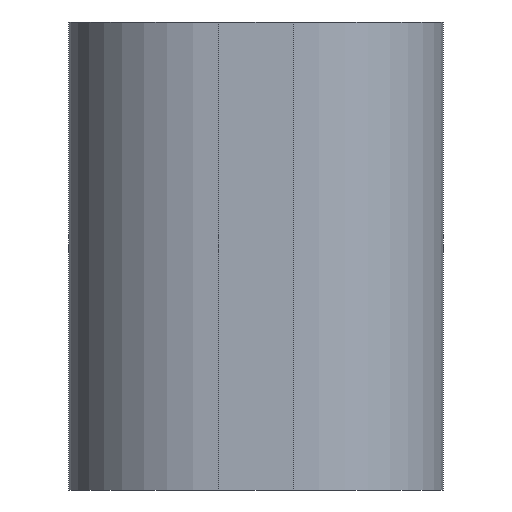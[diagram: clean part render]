
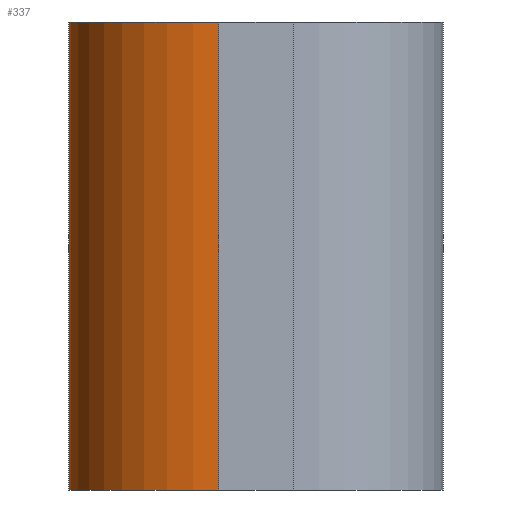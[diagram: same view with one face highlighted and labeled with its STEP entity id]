
A CAD part, front view. The second image highlights one B-rep face of the part: STEP entity #337.
In plain terms, the highlighted cylindrical face has radius 16 mm (diameter 32 mm), a partial arc.
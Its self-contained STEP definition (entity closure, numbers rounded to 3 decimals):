
#22 = VERTEX_POINT('',#23);
#23 = CARTESIAN_POINT('',(-20.,-234.,50.));
#32 = PLANE('',#33);
#33 = AXIS2_PLACEMENT_3D('',#34,#35,#36);
#34 = CARTESIAN_POINT('',(-20.,-250.,0.));
#35 = DIRECTION('',(1.,0.,0.));
#36 = DIRECTION('',(0.,0.,1.));
#44 = PLANE('',#45);
#45 = AXIS2_PLACEMENT_3D('',#46,#47,#48);
#46 = CARTESIAN_POINT('',(-20.,-250.,50.));
#47 = DIRECTION('',(0.,0.,1.));
#48 = DIRECTION('',(1.,0.,0.));
#56 = EDGE_CURVE('',#57,#22,#59,.T.);
#57 = VERTEX_POINT('',#58);
#58 = CARTESIAN_POINT('',(-20.,-234.,0.));
#59 = SURFACE_CURVE('',#60,(#64,#71),.PCURVE_S1.);
#60 = LINE('',#61,#62);
#61 = CARTESIAN_POINT('',(-20.,-234.,0.));
#62 = VECTOR('',#63,1.);
#63 = DIRECTION('',(0.,0.,1.));
#64 = PCURVE('',#32,#65);
#65 = DEFINITIONAL_REPRESENTATION('',(#66),#70);
#66 = LINE('',#67,#68);
#67 = CARTESIAN_POINT('',(0.,-16.));
#68 = VECTOR('',#69,1.);
#69 = DIRECTION('',(1.,0.));
#70 = ( GEOMETRIC_REPRESENTATION_CONTEXT(2) 
PARAMETRIC_REPRESENTATION_CONTEXT() REPRESENTATION_CONTEXT('2D SPACE',''
  ) );
#71 = PCURVE('',#72,#77);
#72 = CYLINDRICAL_SURFACE('',#73,16.);
#73 = AXIS2_PLACEMENT_3D('',#74,#75,#76);
#74 = CARTESIAN_POINT('',(-4.,-234.,0.));
#75 = DIRECTION('',(0.,0.,1.));
#76 = DIRECTION('',(-1.,-0.,0.));
#77 = DEFINITIONAL_REPRESENTATION('',(#78),#82);
#78 = LINE('',#79,#80);
#79 = CARTESIAN_POINT('',(0.,0.));
#80 = VECTOR('',#81,1.);
#81 = DIRECTION('',(0.,1.));
#82 = ( GEOMETRIC_REPRESENTATION_CONTEXT(2) 
PARAMETRIC_REPRESENTATION_CONTEXT() REPRESENTATION_CONTEXT('2D SPACE',''
  ) );
#100 = PLANE('',#101);
#101 = AXIS2_PLACEMENT_3D('',#102,#103,#104);
#102 = CARTESIAN_POINT('',(-20.,-250.,0.));
#103 = DIRECTION('',(0.,0.,1.));
#104 = DIRECTION('',(1.,0.,0.));
#142 = EDGE_CURVE('',#22,#143,#145,.T.);
#143 = VERTEX_POINT('',#144);
#144 = CARTESIAN_POINT('',(-4.,-250.,50.));
#145 = SURFACE_CURVE('',#146,(#151,#158),.PCURVE_S1.);
#146 = CIRCLE('',#147,16.);
#147 = AXIS2_PLACEMENT_3D('',#148,#149,#150);
#148 = CARTESIAN_POINT('',(-4.,-234.,50.));
#149 = DIRECTION('',(0.,0.,1.));
#150 = DIRECTION('',(0.,-1.,0.));
#151 = PCURVE('',#44,#152);
#152 = DEFINITIONAL_REPRESENTATION('',(#153),#157);
#153 = CIRCLE('',#154,16.);
#154 = AXIS2_PLACEMENT_2D('',#155,#156);
#155 = CARTESIAN_POINT('',(16.,16.));
#156 = DIRECTION('',(0.,-1.));
#157 = ( GEOMETRIC_REPRESENTATION_CONTEXT(2) 
PARAMETRIC_REPRESENTATION_CONTEXT() REPRESENTATION_CONTEXT('2D SPACE',''
  ) );
#158 = PCURVE('',#72,#159);
#159 = DEFINITIONAL_REPRESENTATION('',(#160),#164);
#160 = LINE('',#161,#162);
#161 = CARTESIAN_POINT('',(-4.712,50.));
#162 = VECTOR('',#163,1.);
#163 = DIRECTION('',(1.,0.));
#164 = ( GEOMETRIC_REPRESENTATION_CONTEXT(2) 
PARAMETRIC_REPRESENTATION_CONTEXT() REPRESENTATION_CONTEXT('2D SPACE',''
  ) );
#182 = PLANE('',#183);
#183 = AXIS2_PLACEMENT_3D('',#184,#185,#186);
#184 = CARTESIAN_POINT('',(-20.,-250.,0.));
#185 = DIRECTION('',(0.,1.,0.));
#186 = DIRECTION('',(0.,0.,1.));
#337 = ADVANCED_FACE('',(#338),#72,.T.);
#338 = FACE_BOUND('',#339,.T.);
#339 = EDGE_LOOP('',(#340,#364,#385,#386));
#340 = ORIENTED_EDGE('',*,*,#341,.T.);
#341 = EDGE_CURVE('',#57,#342,#344,.T.);
#342 = VERTEX_POINT('',#343);
#343 = CARTESIAN_POINT('',(-4.,-250.,0.));
#344 = SURFACE_CURVE('',#345,(#350,#357),.PCURVE_S1.);
#345 = CIRCLE('',#346,16.);
#346 = AXIS2_PLACEMENT_3D('',#347,#348,#349);
#347 = CARTESIAN_POINT('',(-4.,-234.,0.));
#348 = DIRECTION('',(0.,0.,1.));
#349 = DIRECTION('',(0.,-1.,0.));
#350 = PCURVE('',#72,#351);
#351 = DEFINITIONAL_REPRESENTATION('',(#352),#356);
#352 = LINE('',#353,#354);
#353 = CARTESIAN_POINT('',(-4.712,0.));
#354 = VECTOR('',#355,1.);
#355 = DIRECTION('',(1.,0.));
#356 = ( GEOMETRIC_REPRESENTATION_CONTEXT(2) 
PARAMETRIC_REPRESENTATION_CONTEXT() REPRESENTATION_CONTEXT('2D SPACE',''
  ) );
#357 = PCURVE('',#100,#358);
#358 = DEFINITIONAL_REPRESENTATION('',(#359),#363);
#359 = CIRCLE('',#360,16.);
#360 = AXIS2_PLACEMENT_2D('',#361,#362);
#361 = CARTESIAN_POINT('',(16.,16.));
#362 = DIRECTION('',(0.,-1.));
#363 = ( GEOMETRIC_REPRESENTATION_CONTEXT(2) 
PARAMETRIC_REPRESENTATION_CONTEXT() REPRESENTATION_CONTEXT('2D SPACE',''
  ) );
#364 = ORIENTED_EDGE('',*,*,#365,.T.);
#365 = EDGE_CURVE('',#342,#143,#366,.T.);
#366 = SURFACE_CURVE('',#367,(#371,#378),.PCURVE_S1.);
#367 = LINE('',#368,#369);
#368 = CARTESIAN_POINT('',(-4.,-250.,0.));
#369 = VECTOR('',#370,1.);
#370 = DIRECTION('',(0.,0.,1.));
#371 = PCURVE('',#72,#372);
#372 = DEFINITIONAL_REPRESENTATION('',(#373),#377);
#373 = LINE('',#374,#375);
#374 = CARTESIAN_POINT('',(1.571,0.));
#375 = VECTOR('',#376,1.);
#376 = DIRECTION('',(0.,1.));
#377 = ( GEOMETRIC_REPRESENTATION_CONTEXT(2) 
PARAMETRIC_REPRESENTATION_CONTEXT() REPRESENTATION_CONTEXT('2D SPACE',''
  ) );
#378 = PCURVE('',#182,#379);
#379 = DEFINITIONAL_REPRESENTATION('',(#380),#384);
#380 = LINE('',#381,#382);
#381 = CARTESIAN_POINT('',(0.,16.));
#382 = VECTOR('',#383,1.);
#383 = DIRECTION('',(1.,0.));
#384 = ( GEOMETRIC_REPRESENTATION_CONTEXT(2) 
PARAMETRIC_REPRESENTATION_CONTEXT() REPRESENTATION_CONTEXT('2D SPACE',''
  ) );
#385 = ORIENTED_EDGE('',*,*,#142,.F.);
#386 = ORIENTED_EDGE('',*,*,#56,.F.);
